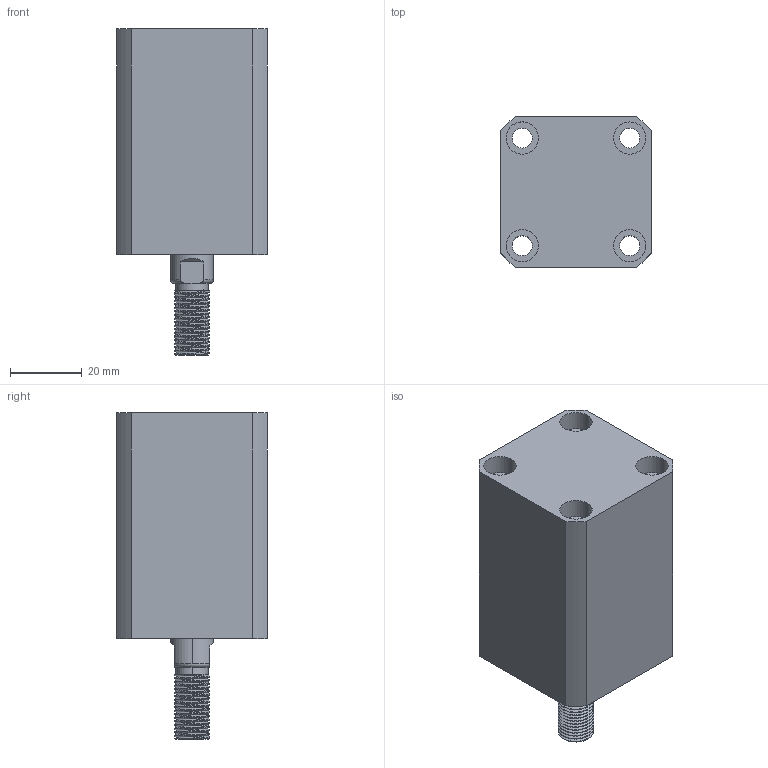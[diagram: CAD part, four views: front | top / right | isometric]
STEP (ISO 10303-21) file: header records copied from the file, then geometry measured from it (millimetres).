
FILE_DESCRIPTION (( 'STEP AP214' ), '1' );
FILE_NAME ('chtb-sd20x20w_asm.STEP', '2018-05-16T09:25:16', ( 'Windows' ), ( 'Microsoft' ), 'SwSTEP 2.0', 'SolidWorks 2015', '' );
FILE_SCHEMA (( 'AUTOMOTIVE_DESIGN' ));
Length unit declared in the file: millimetre
Products named in the file (4): QG; CHTB-SD20X20WHSG; CHTB-SD20X20NBT; chtb-sd20x20w_asm
Assembly tree (3 placements, depth 2):
  chtb-sd20x20w_asm
    CHTB-SD20X20NBT
    CHTB-SD20X20WHSG
    QG
Bounding box: 42 x 42 x 91 mm (x, y, z)
Volume: 96643.1 mm3; surface area: 31875.3 mm2
Topology: 3 solids, 3 shells, 234 faces, 624 edges, 415 vertices
Faces by surface type: cylinder 139, plane 40, torus 25, bspline 21, cone 9
Entity records: 13734 total; most frequent: CARTESIAN_POINT 8172, ORIENTED_EDGE 1240, DIRECTION 1039, EDGE_CURVE 620, AXIS2_PLACEMENT_3D 431, VERTEX_POINT 415, EDGE_LOOP 271, FACE_OUTER_BOUND 234
